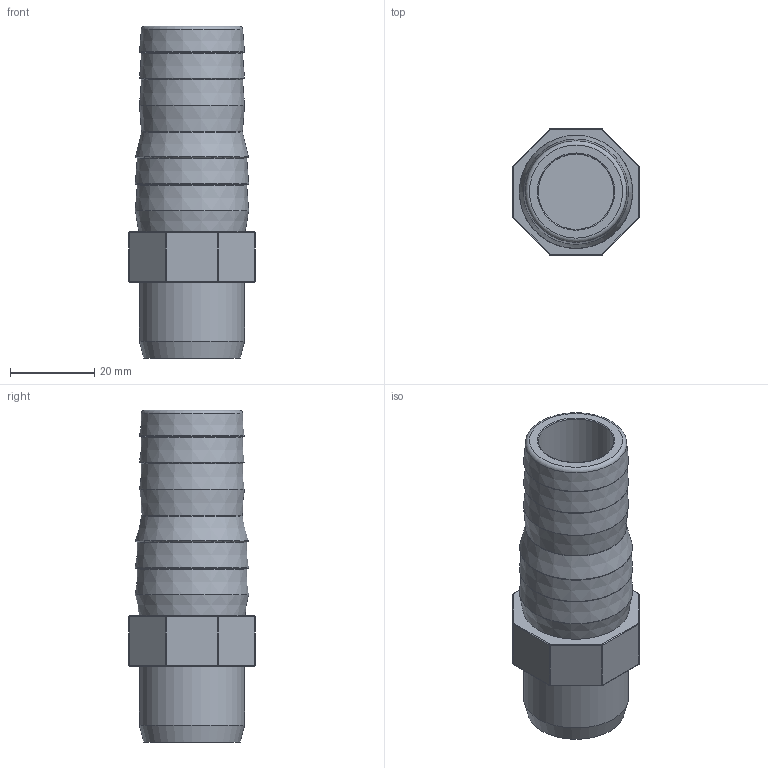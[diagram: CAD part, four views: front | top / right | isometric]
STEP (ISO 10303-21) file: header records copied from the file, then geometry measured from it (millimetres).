
FILE_DESCRIPTION(/* description */ (''),/* implementation_level */ '2;1');
FILE_NAME(/* name */ 'C:\Users\POLYPIPE\Desktop\DATASET INVENTOR\LIBRERIA EFFAST\RACCORDI 3DxWEB\RDR\3D_RDRPGD\3D_RDRPGD0250.stp',/* time_stamp */ '2018-01-19T15:05:38+01:00',/* author */ ('POLYPIPE'),/* organization */ ('Polypipe Italia'),/* preprocessor_version */ 'ST-DEVELOPER v16.1',/* originating_system */ 'Autodesk Inventor 2016',/* authorisation */ '');
FILE_SCHEMA (('CONFIG_CONTROL_DESIGN'));
Length unit declared in the file: millimetre
Products named in the file (1): 3D_RDRPGD0250
Bounding box: 30 x 30 x 79 mm (x, y, z)
Volume: 25251.4 mm3; surface area: 11719.9 mm2
Topology: 1 solids, 1 shells, 84 faces, 160 edges, 86 vertices
Faces by surface type: cylinder 27, plane 18, sphere 16, torus 14, cone 9
Full cylindrical faces by diameter (mm): 18 x2, 25 x1
Entity records: 1928 total; most frequent: DIRECTION 382, CARTESIAN_POINT 297, ORIENTED_EDGE 260, AXIS2_PLACEMENT_3D 167, EDGE_CURVE 130, EDGE_LOOP 118, FACE_OUTER_BOUND 84, ADVANCED_FACE 84
